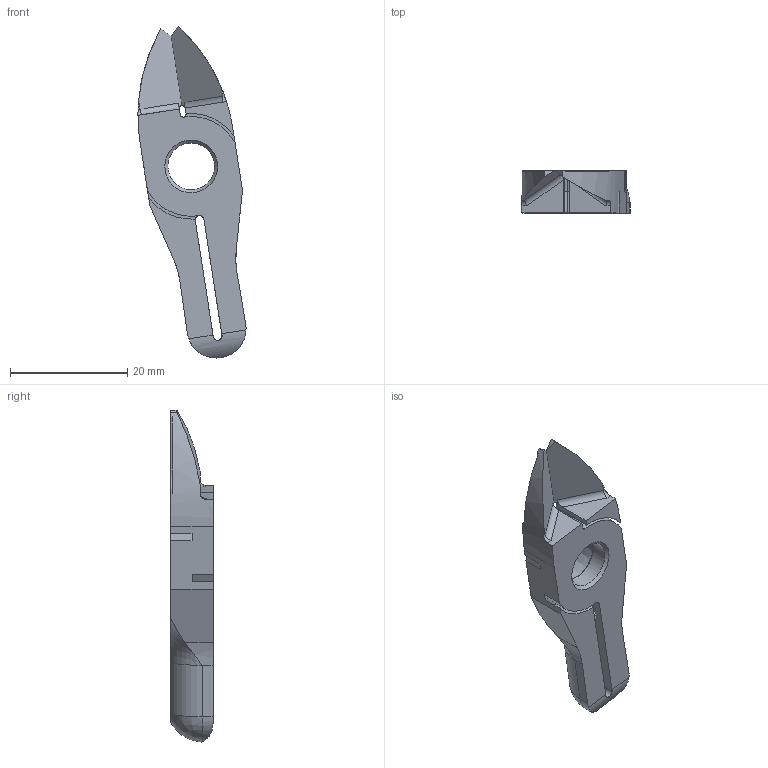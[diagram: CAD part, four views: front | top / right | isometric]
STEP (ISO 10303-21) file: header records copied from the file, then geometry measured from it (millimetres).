
FILE_DESCRIPTION(/* description */ (''),/* implementation_level */ '2;1');
FILE_NAME(/* name */ 'W:\Technik\Konstruktion\CAD-Daten\DJa\Vessel Schneidzangeneinsatz\NY10AJ\NY10AJ closed.stp',/* time_stamp */ '2016-09-07T12:14:57+02:00',/* author */ ('DJansen'),/* organization */ (''),/* preprocessor_version */ 'ST-DEVELOPER v16.1',/* originating_system */ 'Autodesk Inventor 2016',/* authorisation */ '');
FILE_SCHEMA (('AUTOMOTIVE_DESIGN { 1 0 10303 214 3 1 1 }'));
Length unit declared in the file: centimetre
Products named in the file (1): NY10AJ Baugruppe
Bounding box: 18.43 x 7.2 x 56.62 mm (x, y, z)
Volume: 3218 mm3; surface area: 2810.6 mm2
Topology: 1 solids, 1 shells, 85 faces, 239 edges, 154 vertices
Faces by surface type: plane 40, cylinder 34, cone 6, bspline 3, torus 2
Full cylindrical faces by diameter (mm): 4 x2, 8 x1
Entity records: 4599 total; most frequent: CARTESIAN_POINT 2342, ORIENTED_EDGE 450, DIRECTION 450, EDGE_CURVE 224, AXIS2_PLACEMENT_3D 171, VERTEX_POINT 148, LINE 108, VECTOR 108
